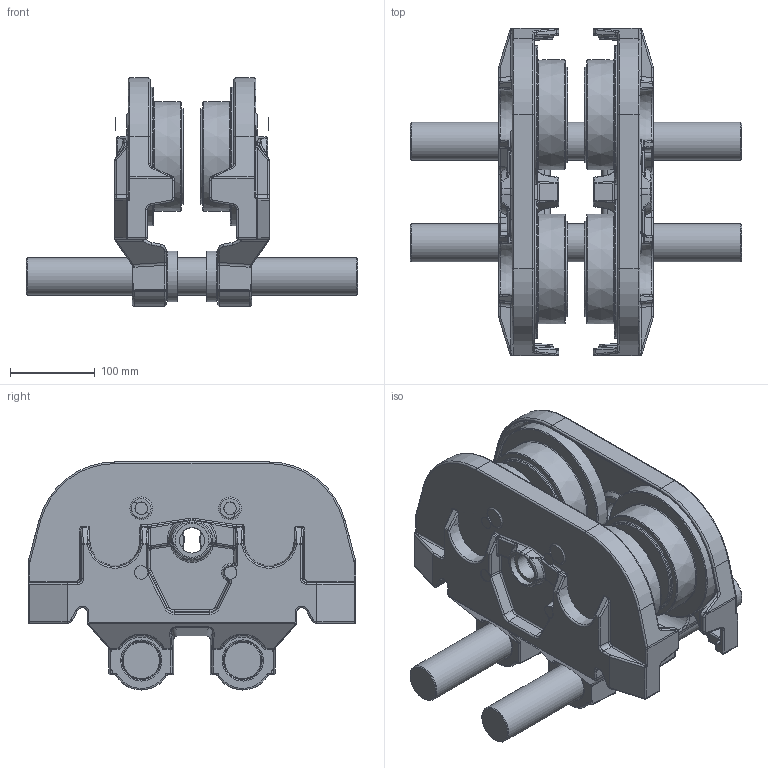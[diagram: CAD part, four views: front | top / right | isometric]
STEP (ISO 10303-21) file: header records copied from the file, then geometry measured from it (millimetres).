
FILE_DESCRIPTION(/* description */ (''),/* implementation_level */ '2;1');
FILE_NAME(/* name */ 'G:\Technik\3D-Dateien light_2015_10_02\Hebezeuge\Fahrwerke\9249.9203.L GHF,6300.stp',/* time_stamp */ '2020-09-08T15:16:12+02:00',/* author */ ('gispen'),/* organization */ (''),/* preprocessor_version */ 'ST-DEVELOPER v17.2',/* originating_system */ 'Autodesk Inventor 2019',/* authorisation */ '');
FILE_SCHEMA (('CONFIG_CONTROL_DESIGN'));
Length unit declared in the file: millimetre
Products named in the file (3): 9249.9203.L; 9249.9310.L; 9249.9311.L
Assembly tree (4 placements, depth 2):
  9249.9203.L
    9249.9310.L  x2
    9249.9311.L  x2
Bounding box: 392 x 387.4 x 269.81 mm (x, y, z)
Volume: 7621861.1 mm3; surface area: 818324.7 mm2
Topology: 4 solids, 4 shells, 1652 faces, 3908 edges, 2256 vertices
Faces by surface type: cylinder 584, bspline 452, plane 258, torus 206, sphere 90, cone 62
Full cylindrical faces by diameter (mm): 16 x2, 30 x2, 40 x2, 45 x10, 60 x4, 102 x4, 164.017 x4
Entity records: 31992 total; most frequent: CARTESIAN_POINT 12445, DIRECTION 4058, ORIENTED_EDGE 3872, EDGE_CURVE 1936, AXIS2_PLACEMENT_3D 1731, VERTEX_POINT 1128, CIRCLE 878, EDGE_LOOP 846
